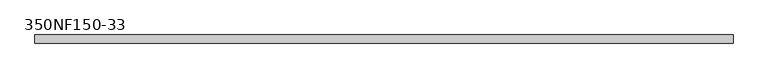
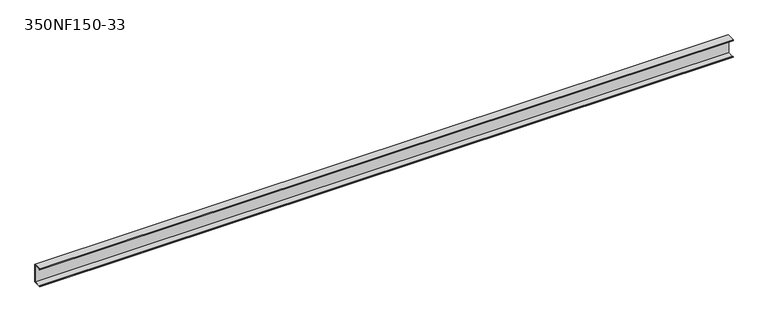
"""IFC4 building model written with IfcOpenShell, lengths in millimetres: beam geometry, BIMSF-SSMA-S : 350NF150-33."""

import ifcopenshell
import ifcopenshell.guid

model = None  # the IFC model being written
_history = None  # IfcOwnerHistory: only IFC2X3 demands one
_inside = {}  # id of a spatial element -> (the spatial element, [elements in it])
_under = {}  # id of a project, library or spatial element -> (it, [spatial elements below it])
_declared = {}  # id of a project -> (the project, [libraries it declares])
_typed = {}  # id of a type object -> (the type object, [elements of that type])
_made_of = {}  # id of a material, layer set ... -> (it, [elements and type objects made of it])


def new_model(schema):
    """Start an empty IFC model of exactly this schema.

    Asked for "IFC4X3", IfcOpenShell would pick the latest addendum, in which some entities
    have other attributes; the version numbers below select the first issue.
    IFC2X3 requires an IfcOwnerHistory on every rooted entity: one is made here for all.
    """
    global model, _history
    if schema == "IFC4X3":
        model = ifcopenshell.file(schema_version=(4, 3, 0, 0))
    else:
        model = ifcopenshell.file(schema=schema)
    _inside.clear()
    _under.clear()
    _declared.clear()
    _typed.clear()
    _made_of.clear()
    _history = None
    if model.schema == "IFC2X3":
        org = make("IfcOrganization", Name="unknown")
        user = make(
            "IfcPersonAndOrganization",
            ThePerson=make("IfcPerson", FamilyName="unknown"),
            TheOrganization=org,
        )
        app = make(
            "IfcApplication",
            ApplicationDeveloper=org,
            Version="unknown",
            ApplicationFullName="unknown",
            ApplicationIdentifier="unknown",
        )
        _history = make(
            "IfcOwnerHistory",
            OwningUser=user,
            OwningApplication=app,
            ChangeAction="ADDED",
            CreationDate=0,
        )
    return model


def make(cls, **values):
    """One entity of the class cls with the attributes given. An attribute that is None is left unset."""
    return model.create_entity(
        cls, **{name: value for name, value in values.items() if value is not None}
    )


def rooted(cls, **values):
    """An entity with a GlobalId (a new one), such as an element, a storey or a relation."""
    return make(cls, GlobalId=ifcopenshell.guid.new(), OwnerHistory=_history, **values)


def si_unit(unit_type, name, prefix=None):
    """IfcSIUnit, for example si_unit("LENGTHUNIT", "METRE", prefix="MILLI")."""
    return make("IfcSIUnit", UnitType=unit_type, Prefix=prefix, Name=name)


def assignment(units):
    """IfcUnitAssignment: the units of a project."""
    return None if units is None else make("IfcUnitAssignment", Units=units)


def point(xyz):
    """IfcCartesianPoint."""
    return None if xyz is None else make("IfcCartesianPoint", Coordinates=xyz)


def direction(xyz):
    """IfcDirection."""
    return None if xyz is None else make("IfcDirection", DirectionRatios=xyz)


def frame(location, z_axis=None, x_axis=None):
    """IfcAxis2Placement3D, a coordinate frame: its origin and axes. An axis left out is left unset."""
    return make(
        "IfcAxis2Placement3D",
        Location=point(location),
        Axis=direction(z_axis),
        RefDirection=direction(x_axis),
    )


def origin():
    """The frame at (0, 0, 0) with its axes left unset."""
    return frame((0.0, 0.0, 0.0))


def place(relative_to, where):
    """IfcLocalPlacement: puts the frame where relative to a parent placement (None: the world)."""
    return make(
        "IfcLocalPlacement", PlacementRelTo=relative_to, RelativePlacement=where
    )


def context(
    kind, dimensions, precision=None, world=None, true_north=None, identifier=None
):
    """IfcGeometricRepresentationContext, for example the 3D "Model" context."""
    return make(
        "IfcGeometricRepresentationContext",
        ContextIdentifier=identifier,
        ContextType=kind,
        CoordinateSpaceDimension=dimensions,
        Precision=precision,
        WorldCoordinateSystem=world,
        TrueNorth=true_north,
    )


def project(units=None, contexts=None):
    """IfcProject with its units and contexts."""
    return rooted(
        "IfcProject",
        Name="project",
        RepresentationContexts=contexts,
        UnitsInContext=assignment(units),
    )


def spatial(cls, under=None, at=None, **own):
    """A site, building, storey or space (cls), placed at a placement, below another one or the project."""
    s = rooted(cls, ObjectPlacement=at, **own)
    if under is not None:
        _under.setdefault(under.id(), (under, []))[1].append(s)
    return s


def polyline(points):
    """IfcPolyline through the points."""
    return make("IfcPolyline", Points=[point(p) for p in points])


def outline(outer, holes=None, kind="AREA"):
    """IfcArbitraryClosedProfileDef: a profile drawn as a closed curve; with holes, ...WithVoids."""
    if holes is None:
        return make("IfcArbitraryClosedProfileDef", ProfileType=kind, OuterCurve=outer)
    return make(
        "IfcArbitraryProfileDefWithVoids",
        ProfileType=kind,
        OuterCurve=outer,
        InnerCurves=holes,
    )


def extrude(swept, where, along, depth):
    """IfcExtrudedAreaSolid: the profile swept, set in the frame where, extruded along a direction by depth."""
    return make(
        "IfcExtrudedAreaSolid",
        SweptArea=swept,
        Position=where,
        ExtrudedDirection=direction(along),
        Depth=depth,
    )


def shape(context_of_items, identifier, shape_type, items):
    """IfcShapeRepresentation: the items that make up one representation, for example the "Body"."""
    return make(
        "IfcShapeRepresentation",
        ContextOfItems=context_of_items,
        RepresentationIdentifier=identifier,
        RepresentationType=shape_type,
        Items=items,
    )


def source(mapping_origin, context_of_items, identifier, shape_type, items):
    """IfcRepresentationMap: a shape defined once, which mapped items show again and again."""
    return make(
        "IfcRepresentationMap",
        MappingOrigin=mapping_origin,
        MappedRepresentation=shape(context_of_items, identifier, shape_type, items),
    )


def transform(
    local_origin,
    x_axis=None,
    y_axis=None,
    z_axis=None,
    scale=None,
    scale2=None,
    scale3=None,
    uniform=True,
):
    """IfcCartesianTransformationOperator3D, or its non-uniform kind. x_axis, y_axis, z_axis: its Axis1, 2, 3."""
    if uniform:
        return make(
            "IfcCartesianTransformationOperator3D",
            Axis1=direction(x_axis),
            Axis2=direction(y_axis),
            LocalOrigin=point(local_origin),
            Scale=scale,
            Axis3=direction(z_axis),
        )
    return make(
        "IfcCartesianTransformationOperator3DnonUniform",
        Axis1=direction(x_axis),
        Axis2=direction(y_axis),
        LocalOrigin=point(local_origin),
        Scale=scale,
        Axis3=direction(z_axis),
        Scale2=scale2,
        Scale3=scale3,
    )


def mapped(mapping_source, mapping_target):
    """IfcMappedItem: shows the shape of a source again, moved by a transform."""
    return make(
        "IfcMappedItem", MappingSource=mapping_source, MappingTarget=mapping_target
    )


def made_of(thing, what):
    """Note that an element or type object is made of a material, layer set ...; save() writes the relation."""
    if what is not None:
        _made_of.setdefault(what.id(), (what, []))[1].append(thing)
    return thing


def element(
    cls,
    number,
    at=None,
    inside=None,
    cuts=None,
    type_object=None,
    material=None,
    context=None,
    identifier="Body",
    shape_type=None,
    held_by="IfcProductDefinitionShape",
    body=None,
    shapes=None,
    **own,
):
    """One element of the class cls, such as IfcWall. Its Tag is "e" and its number.

    at: its placement. inside: the storey or other place that contains it. cuts: it is an
    opening in that element (IfcRelVoidsElement). A single representation is given by context,
    identifier, shape_type and body (its items); several are given by shapes. held_by: the class
    of the entity that holds the representations. save() writes the other relations.
    """
    e = rooted(cls, Tag="e%d" % number, ObjectPlacement=at, **own)
    if body is not None:
        shapes = [shape(context, identifier, shape_type, body)]
    if shapes is not None:
        e.Representation = make(held_by, Representations=shapes)
    if inside is not None:
        _inside.setdefault(inside.id(), (inside, []))[1].append(e)
    if cuts is not None:
        rooted(
            "IfcRelVoidsElement", RelatingBuildingElement=cuts, RelatedOpeningElement=e
        )
    if type_object is not None:
        _typed.setdefault(type_object.id(), (type_object, []))[1].append(e)
    return made_of(e, material)


def aggregate(whole, parts):
    """IfcRelAggregates: a whole, such as a stair, and the parts it consists of."""
    return rooted("IfcRelAggregates", RelatingObject=whole, RelatedObjects=parts)


def save(model, path):
    """Write the relations noted so far, then the file.

    IfcRelAggregates (storeys below a building ...), IfcRelContainedInSpatialStructure (elements
    in a storey), IfcRelDefinesByType, IfcRelAssociatesMaterial and IfcRelDeclares: one each for
    every whole, place, type object, material and project.
    """
    for whole, parts in _under.values():
        aggregate(whole, parts)
    for where, things in _inside.values():
        rooted(
            "IfcRelContainedInSpatialStructure",
            RelatedElements=things,
            RelatingStructure=where,
        )
    for kind, things in _typed.values():
        rooted("IfcRelDefinesByType", RelatedObjects=things, RelatingType=kind)
    for what, things in _made_of.values():
        rooted("IfcRelAssociatesMaterial", RelatedObjects=things, RelatingMaterial=what)
    for by, libraries in _declared.values():
        rooted("IfcRelDeclares", RelatingContext=by, RelatedDefinitions=libraries)
    model.write(path)


def beam_350nf150_33_10881730(model_context):
    return source(origin(), model_context, "Body", "SweptSolid", [
        extrude(outline(polyline([(19.05, 44.45), (19.05, -44.45), (-19.05, -44.45), (-19.05, -39.6748), (-18.1676842, -39.6748), (-18.1676842, -43.5676842), (18.1676842, -43.5676842), (18.1676842, 43.5676842), (-18.1676842, 43.5676842), (-18.1676842, 39.6748), (-19.05, 39.6748), (-19.05, 44.45), (19.05, 44.45)])), frame((-1626.3345052, 0.0, 0.0), z_axis=(1.0, 0.0, 0.0), x_axis=(0.0, 1.0, 0.0)), (0.0, 0.0, 1.0), 3252.6690104),
    ])


if __name__ == "__main__":
    model = new_model("IFC4")
    model_context = context("Model", 3, world=origin())
    ifc_project = project(units=[si_unit("LENGTHUNIT", "METRE", prefix="MILLI")], contexts=[model_context])
    site = spatial("IfcSite", under=ifc_project)
    building = spatial("IfcBuilding", under=site)
    placement = place(None, origin())
    beam_350nf150_33_shape = beam_350nf150_33_10881730(model_context)
    element("IfcBeam", 1, ObjectType="BIMSF-SSMA-S : 350NF150-33", at=placement, inside=building, context=model_context, shape_type="MappedRepresentation", body=[
        mapped(beam_350nf150_33_shape, transform((0.0, 0.0, 0.0), x_axis=(1.0, 0.0, 0.0), y_axis=(0.0, 1.0, 0.0), z_axis=(0.0, 0.0, 1.0))),
    ])
    save(model, "model.ifc")
